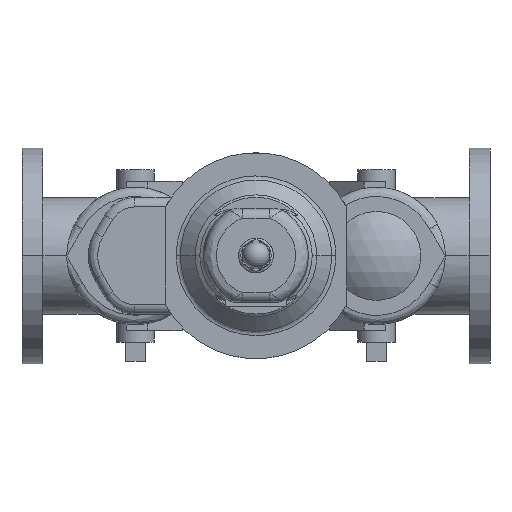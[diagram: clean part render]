
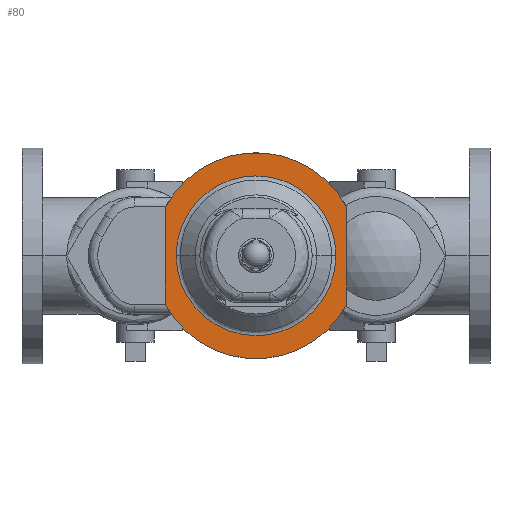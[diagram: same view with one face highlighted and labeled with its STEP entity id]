
A CAD part, top view. The second image highlights one B-rep face of the part: STEP entity #80.
In plain terms, the highlighted planar face has unit normal (0, 0, 1) as drawn and (0, 1, 0) by its records, which use the part's own axes.
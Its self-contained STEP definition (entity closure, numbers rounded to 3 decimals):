
#80=ADVANCED_FACE('',(#394,#395),#393,.T.);
#393=PLANE('',#3100);
#394=FACE_OUTER_BOUND('',#3101,.T.);
#395=FACE_BOUND('',#3102,.T.);
#3097=CARTESIAN_POINT('',(-88.117,132.,-98.5));
#3098=DIRECTION('',(0.,1.,0.));
#3099=DIRECTION('',(0.,0.,1.));
#3100=AXIS2_PLACEMENT_3D('',#3097,#3098,#3099);
#3101=EDGE_LOOP('',(#6625,#6626,#6627,#6628));
#3102=EDGE_LOOP('',(#6629,#6630,#6631));
#6625=ORIENTED_EDGE('',*,*,#8036,.T.);
#6626=ORIENTED_EDGE('',*,*,#8037,.T.);
#6627=ORIENTED_EDGE('',*,*,#8038,.T.);
#6628=ORIENTED_EDGE('',*,*,#8039,.T.);
#6629=ORIENTED_EDGE('',*,*,#8040,.T.);
#6630=ORIENTED_EDGE('',*,*,#8041,.T.);
#6631=ORIENTED_EDGE('',*,*,#8042,.T.);
#8036=EDGE_CURVE('',#8867,#8868,#8869,.T.);
#8037=EDGE_CURVE('',#8868,#8875,#8876,.T.);
#8038=EDGE_CURVE('',#8875,#8882,#8883,.T.);
#8039=EDGE_CURVE('',#8882,#8867,#8889,.T.);
#8040=EDGE_CURVE('',#8895,#8896,#8897,.T.);
#8041=EDGE_CURVE('',#8896,#8903,#8904,.T.);
#8042=EDGE_CURVE('',#8903,#8895,#8910,.T.);
#8867=VERTEX_POINT('',#13509);
#8868=VERTEX_POINT('',#13510);
#8869=CIRCLE('',#13514,88.5);
#8875=VERTEX_POINT('',#13515);
#8876=LINE('',#13516,#13517);
#8882=VERTEX_POINT('',#13519);
#8883=CIRCLE('',#13523,88.5);
#8889=LINE('',#13524,#13525);
#8895=VERTEX_POINT('',#13527);
#8896=VERTEX_POINT('',#13528);
#8897=CIRCLE('',#13532,68.571);
#8903=VERTEX_POINT('',#13533);
#8904=(BOUNDED_CURVE() B_SPLINE_CURVE(2,(#13534,#13535,#13536,#13537,#13538),.UNSPECIFIED.,.F.,.F.) B_SPLINE_CURVE_WITH_KNOTS((3,2,3),(0.,0.5,1.),.UNSPECIFIED.) CURVE() GEOMETRIC_REPRESENTATION_ITEM() RATIONAL_B_SPLINE_CURVE((1.,0.707,1.,0.707,1.)) REPRESENTATION_ITEM('') );
#8910=(BOUNDED_CURVE() B_SPLINE_CURVE(2,(#13539,#13540,#13541),.UNSPECIFIED.,.F.,.F.) B_SPLINE_CURVE_WITH_KNOTS((3,3),(0.,1.),.UNSPECIFIED.) CURVE() GEOMETRIC_REPRESENTATION_ITEM() RATIONAL_B_SPLINE_CURVE((1.,0.707,1.)) REPRESENTATION_ITEM('') );
#13509=CARTESIAN_POINT('',(78.117,132.,-41.593));
#13510=CARTESIAN_POINT('',(-78.117,132.,-41.593));
#13511=CARTESIAN_POINT('',(0.,132.,0.));
#13512=DIRECTION('',(0.,1.,0.));
#13513=DIRECTION('',(-0.883,0.,0.47));
#13514=AXIS2_PLACEMENT_3D('',#13511,#13512,#13513);
#13515=CARTESIAN_POINT('',(-78.117,132.,41.593));
#13516=CARTESIAN_POINT('',(-78.117,132.,-41.593));
#13517=VECTOR('',#13518,83.186);
#13518=DIRECTION('',(0.,0.,1.));
#13519=CARTESIAN_POINT('',(78.117,132.,41.593));
#13520=CARTESIAN_POINT('',(0.,132.,0.));
#13521=DIRECTION('',(0.,1.,0.));
#13522=DIRECTION('',(0.883,0.,-0.47));
#13523=AXIS2_PLACEMENT_3D('',#13520,#13521,#13522);
#13524=CARTESIAN_POINT('',(78.117,132.,41.593));
#13525=VECTOR('',#13526,83.186);
#13526=DIRECTION('',(0.,0.,-1.));
#13527=CARTESIAN_POINT('',(0.,132.,68.571));
#13528=CARTESIAN_POINT('',(-68.571,132.,0.));
#13529=CARTESIAN_POINT('',(0.,132.,0.));
#13530=DIRECTION('',(0.,-1.,0.));
#13531=DIRECTION('',(0.,0.,-1.));
#13532=AXIS2_PLACEMENT_3D('',#13529,#13530,#13531);
#13533=CARTESIAN_POINT('',(68.571,132.,0.));
#13534=CARTESIAN_POINT('',(-68.571,132.,0.));
#13535=CARTESIAN_POINT('',(-68.571,132.,-68.568));
#13536=CARTESIAN_POINT('',(-0.004,132.,-68.571));
#13537=CARTESIAN_POINT('',(68.564,132.,-68.575));
#13538=CARTESIAN_POINT('',(68.571,132.,0.));
#13539=CARTESIAN_POINT('',(68.571,132.,0.));
#13540=CARTESIAN_POINT('',(68.578,132.,68.571));
#13541=CARTESIAN_POINT('',(0.,132.,68.571));
